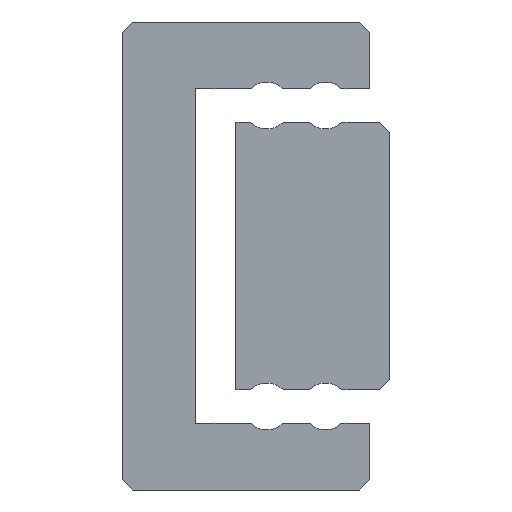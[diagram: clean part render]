
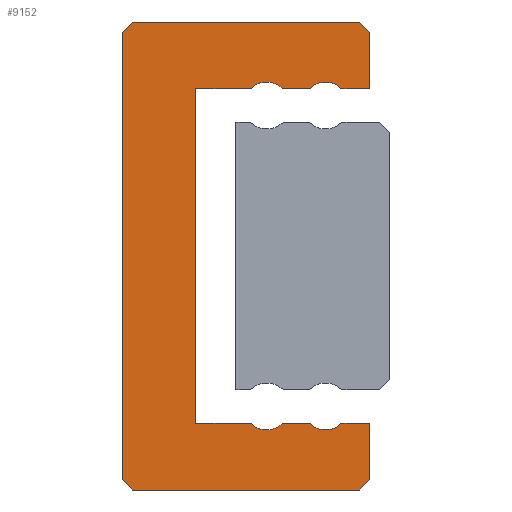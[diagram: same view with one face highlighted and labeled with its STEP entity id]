
A CAD part, left-side view. The second image highlights one B-rep face of the part: STEP entity #9152.
In plain terms, the highlighted planar face has unit normal (-1, 0, 0).
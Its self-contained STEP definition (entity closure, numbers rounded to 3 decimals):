
#292=CIRCLE('',#9932,0.35);
#294=CIRCLE('',#9936,0.35);
#298=CIRCLE('',#9944,0.35);
#300=CIRCLE('',#9948,0.35);
#1524=ORIENTED_EDGE('',*,*,#3844,.F.);
#1525=ORIENTED_EDGE('',*,*,#4288,.F.);
#1526=ORIENTED_EDGE('',*,*,#4285,.F.);
#1527=ORIENTED_EDGE('',*,*,#4280,.F.);
#1528=ORIENTED_EDGE('',*,*,#4277,.F.);
#1529=ORIENTED_EDGE('',*,*,#4274,.F.);
#1530=ORIENTED_EDGE('',*,*,#4271,.F.);
#1531=ORIENTED_EDGE('',*,*,#4268,.F.);
#1532=ORIENTED_EDGE('',*,*,#4265,.T.);
#1533=ORIENTED_EDGE('',*,*,#4262,.F.);
#1534=ORIENTED_EDGE('',*,*,#4259,.T.);
#1535=ORIENTED_EDGE('',*,*,#4256,.F.);
#1536=ORIENTED_EDGE('',*,*,#4253,.F.);
#1537=ORIENTED_EDGE('',*,*,#4248,.F.);
#1538=ORIENTED_EDGE('',*,*,#4245,.T.);
#1539=ORIENTED_EDGE('',*,*,#4242,.F.);
#1540=ORIENTED_EDGE('',*,*,#4239,.T.);
#1541=ORIENTED_EDGE('',*,*,#4236,.F.);
#1542=ORIENTED_EDGE('',*,*,#4233,.F.);
#1543=ORIENTED_EDGE('',*,*,#4230,.F.);
#3844=EDGE_CURVE('',#5256,#5257,#6212,.T.);
#4230=EDGE_CURVE('',#5257,#5642,#6350,.T.);
#4233=EDGE_CURVE('',#5642,#5644,#6353,.T.);
#4236=EDGE_CURVE('',#5644,#5646,#6356,.T.);
#4239=EDGE_CURVE('',#5648,#5646,#292,.T.);
#4242=EDGE_CURVE('',#5648,#5650,#6360,.T.);
#4245=EDGE_CURVE('',#5652,#5650,#294,.T.);
#4248=EDGE_CURVE('',#5652,#5654,#6364,.T.);
#4253=EDGE_CURVE('',#5654,#5658,#6367,.T.);
#4256=EDGE_CURVE('',#5658,#5660,#6370,.T.);
#4259=EDGE_CURVE('',#5662,#5660,#298,.T.);
#4262=EDGE_CURVE('',#5662,#5664,#6374,.T.);
#4265=EDGE_CURVE('',#5666,#5664,#300,.T.);
#4268=EDGE_CURVE('',#5666,#5668,#6378,.T.);
#4271=EDGE_CURVE('',#5668,#5670,#6381,.T.);
#4274=EDGE_CURVE('',#5670,#5672,#6384,.T.);
#4277=EDGE_CURVE('',#5672,#5674,#6387,.T.);
#4280=EDGE_CURVE('',#5674,#5676,#6390,.T.);
#4285=EDGE_CURVE('',#5676,#5680,#6393,.T.);
#4288=EDGE_CURVE('',#5680,#5256,#6396,.T.);
#5256=VERTEX_POINT('',#13929);
#5257=VERTEX_POINT('',#13930);
#5642=VERTEX_POINT('',#14702);
#5644=VERTEX_POINT('',#14708);
#5646=VERTEX_POINT('',#14714);
#5648=VERTEX_POINT('',#14720);
#5650=VERTEX_POINT('',#14726);
#5652=VERTEX_POINT('',#14732);
#5654=VERTEX_POINT('',#14738);
#5658=VERTEX_POINT('',#14748);
#5660=VERTEX_POINT('',#14754);
#5662=VERTEX_POINT('',#14760);
#5664=VERTEX_POINT('',#14766);
#5666=VERTEX_POINT('',#14772);
#5668=VERTEX_POINT('',#14778);
#5670=VERTEX_POINT('',#14784);
#5672=VERTEX_POINT('',#14790);
#5674=VERTEX_POINT('',#14796);
#5676=VERTEX_POINT('',#14802);
#5680=VERTEX_POINT('',#14812);
#6212=LINE('',#13928,#7028);
#6350=LINE('',#14701,#7166);
#6353=LINE('',#14707,#7169);
#6356=LINE('',#14713,#7172);
#6360=LINE('',#14725,#7176);
#6364=LINE('',#14737,#7180);
#6367=LINE('',#14747,#7183);
#6370=LINE('',#14753,#7186);
#6374=LINE('',#14765,#7190);
#6378=LINE('',#14777,#7194);
#6381=LINE('',#14783,#7197);
#6384=LINE('',#14789,#7200);
#6387=LINE('',#14795,#7203);
#6390=LINE('',#14801,#7206);
#6393=LINE('',#14811,#7209);
#6396=LINE('',#14817,#7212);
#7028=VECTOR('',#10869,1000.);
#7166=VECTOR('',#11505,1000.);
#7169=VECTOR('',#11510,1000.);
#7172=VECTOR('',#11515,1000.);
#7176=VECTOR('',#11527,1000.);
#7180=VECTOR('',#11539,1000.);
#7183=VECTOR('',#11548,1000.);
#7186=VECTOR('',#11553,1000.);
#7190=VECTOR('',#11565,1000.);
#7194=VECTOR('',#11577,1000.);
#7197=VECTOR('',#11582,1000.);
#7200=VECTOR('',#11587,1000.);
#7203=VECTOR('',#11592,1000.);
#7206=VECTOR('',#11597,1000.);
#7209=VECTOR('',#11606,1000.);
#7212=VECTOR('',#11611,1000.);
#7880=EDGE_LOOP('',(#1524,#1525,#1526,#1527,#1528,#1529,#1530,#1531,#1532,
#1533,#1534,#1535,#1536,#1537,#1538,#1539,#1540,#1541,#1542,#1543));
#8430=FACE_BOUND('',#7880,.T.);
#8939=PLANE('',#9960);
#9152=ADVANCED_FACE('',(#8430),#8939,.F.);
#9932=AXIS2_PLACEMENT_3D('',#14719,#11520,#11521);
#9936=AXIS2_PLACEMENT_3D('',#14731,#11532,#11533);
#9944=AXIS2_PLACEMENT_3D('',#14759,#11558,#11559);
#9948=AXIS2_PLACEMENT_3D('',#14771,#11570,#11571);
#9960=AXIS2_PLACEMENT_3D('',#14820,#11615,#11616);
#10869=DIRECTION('',(0.,-1.,0.));
#11505=DIRECTION('',(0.,-0.707,-0.707));
#11510=DIRECTION('',(0.,0.,-1.));
#11515=DIRECTION('',(0.,1.,0.));
#11520=DIRECTION('',(1.,0.,0.));
#11521=DIRECTION('',(0.,0.,-1.));
#11527=DIRECTION('',(0.,1.,0.));
#11532=DIRECTION('',(1.,0.,0.));
#11533=DIRECTION('',(0.,0.,-1.));
#11539=DIRECTION('',(0.,1.,0.));
#11548=DIRECTION('',(0.,0.,-1.));
#11553=DIRECTION('',(0.,-1.,0.));
#11558=DIRECTION('',(1.,0.,0.));
#11559=DIRECTION('',(0.,0.,-1.));
#11565=DIRECTION('',(0.,-1.,0.));
#11570=DIRECTION('',(1.,0.,0.));
#11571=DIRECTION('',(0.,0.,-1.));
#11577=DIRECTION('',(0.,-1.,0.));
#11582=DIRECTION('',(0.,0.,-1.));
#11587=DIRECTION('',(0.,0.707,-0.707));
#11592=DIRECTION('',(0.,1.,0.));
#11597=DIRECTION('',(0.,0.707,0.707));
#11606=DIRECTION('',(0.,0.,1.));
#11611=DIRECTION('',(0.,-0.707,0.707));
#11615=DIRECTION('',(1.,0.,0.));
#11616=DIRECTION('',(0.,0.,-1.));
#13928=CARTESIAN_POINT('',(-12.5,3.55,3.5));
#13929=CARTESIAN_POINT('',(-12.5,3.55,3.5));
#13930=CARTESIAN_POINT('',(-12.5,0.15,3.5));
#14701=CARTESIAN_POINT('',(-12.5,0.15,3.5));
#14702=CARTESIAN_POINT('',(-12.5,0.,3.35));
#14707=CARTESIAN_POINT('',(-12.5,0.,3.35));
#14708=CARTESIAN_POINT('',(-12.5,0.,2.5));
#14713=CARTESIAN_POINT('',(-12.5,0.,2.5));
#14714=CARTESIAN_POINT('',(-12.5,0.415,2.5));
#14719=CARTESIAN_POINT('',(-12.5,0.66,2.25));
#14720=CARTESIAN_POINT('',(-12.5,0.905,2.5));
#14725=CARTESIAN_POINT('',(-12.5,0.905,2.5));
#14726=CARTESIAN_POINT('',(-12.5,1.295,2.5));
#14731=CARTESIAN_POINT('',(-12.5,1.54,2.25));
#14732=CARTESIAN_POINT('',(-12.5,1.785,2.5));
#14737=CARTESIAN_POINT('',(-12.5,1.785,2.5));
#14738=CARTESIAN_POINT('',(-12.5,2.6,2.5));
#14747=CARTESIAN_POINT('',(-12.5,2.6,2.5));
#14748=CARTESIAN_POINT('',(-12.5,2.6,-2.5));
#14753=CARTESIAN_POINT('',(-12.5,2.6,-2.5));
#14754=CARTESIAN_POINT('',(-12.5,1.785,-2.5));
#14759=CARTESIAN_POINT('',(-12.5,1.54,-2.25));
#14760=CARTESIAN_POINT('',(-12.5,1.295,-2.5));
#14765=CARTESIAN_POINT('',(-12.5,1.295,-2.5));
#14766=CARTESIAN_POINT('',(-12.5,0.905,-2.5));
#14771=CARTESIAN_POINT('',(-12.5,0.66,-2.25));
#14772=CARTESIAN_POINT('',(-12.5,0.415,-2.5));
#14777=CARTESIAN_POINT('',(-12.5,0.415,-2.5));
#14778=CARTESIAN_POINT('',(-12.5,0.,-2.5));
#14783=CARTESIAN_POINT('',(-12.5,0.,-2.5));
#14784=CARTESIAN_POINT('',(-12.5,0.,-3.35));
#14789=CARTESIAN_POINT('',(-12.5,0.,-3.35));
#14790=CARTESIAN_POINT('',(-12.5,0.15,-3.5));
#14795=CARTESIAN_POINT('',(-12.5,0.15,-3.5));
#14796=CARTESIAN_POINT('',(-12.5,3.55,-3.5));
#14801=CARTESIAN_POINT('',(-12.5,3.55,-3.5));
#14802=CARTESIAN_POINT('',(-12.5,3.7,-3.35));
#14811=CARTESIAN_POINT('',(-12.5,3.7,-3.35));
#14812=CARTESIAN_POINT('',(-12.5,3.7,3.35));
#14817=CARTESIAN_POINT('',(-12.5,3.7,3.35));
#14820=CARTESIAN_POINT('',(-12.5,0.66,2.25));
